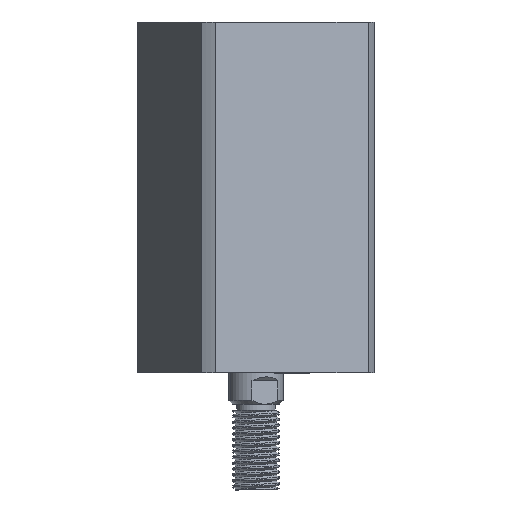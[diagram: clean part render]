
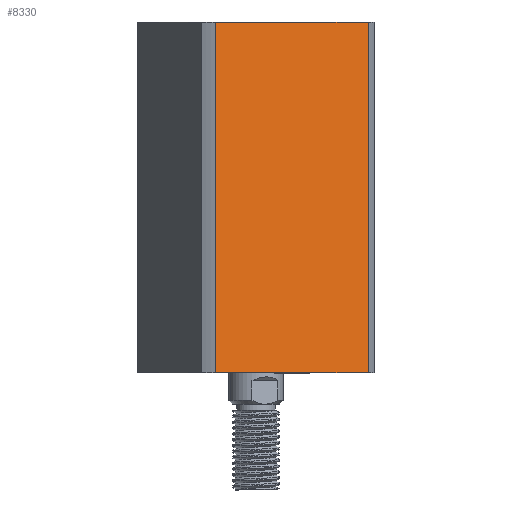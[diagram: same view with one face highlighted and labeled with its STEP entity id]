
A CAD part, front view. The second image highlights one B-rep face of the part: STEP entity #8330.
In plain terms, the highlighted planar face has unit normal (0.383, -0.924, 0) as drawn and (1, 0, 0) by its records, which use the part's own axes.
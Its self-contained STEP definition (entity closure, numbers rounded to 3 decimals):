
#336 = VERTEX_POINT ( 'NONE', #8269 ) ;
#356 = LINE ( 'NONE', #6537, #4519 ) ;
#383 = DIRECTION ( 'NONE',  ( 0., 0., -1. ) ) ;
#389 = ORIENTED_EDGE ( 'NONE', *, *, #9160, .F. ) ;
#604 = VERTEX_POINT ( 'NONE', #7932 ) ;
#1126 = LINE ( 'NONE', #10516, #4770 ) ;
#1274 = VECTOR ( 'NONE', #3169, 1000. ) ;
#1528 = FACE_OUTER_BOUND ( 'NONE', #9375, .T. ) ;
#1807 = CARTESIAN_POINT ( 'NONE',  ( 24., 24., 90. ) ) ;
#1897 = LINE ( 'NONE', #4526, #6335 ) ;
#2909 = VERTEX_POINT ( 'NONE', #4061 ) ;
#3169 = DIRECTION ( 'NONE',  ( 0., 1., 0. ) ) ;
#3454 = LINE ( 'NONE', #9014, #1274 ) ;
#4056 = ORIENTED_EDGE ( 'NONE', *, *, #8090, .F. ) ;
#4061 = CARTESIAN_POINT ( 'NONE',  ( 24., -21.166, 90. ) ) ;
#4292 = PLANE ( 'NONE',  #8685 ) ;
#4519 = VECTOR ( 'NONE', #5700, 1000. ) ;
#4526 = CARTESIAN_POINT ( 'NONE',  ( 24., 21.166, -10. ) ) ;
#4770 = VECTOR ( 'NONE', #10606, 1000. ) ;
#5131 = DIRECTION ( 'NONE',  ( 0., -1., 0. ) ) ;
#5700 = DIRECTION ( 'NONE',  ( 0., 0., 1. ) ) ;
#6319 = VERTEX_POINT ( 'NONE', #7561 ) ;
#6335 = VECTOR ( 'NONE', #383, 1000. ) ;
#6537 = CARTESIAN_POINT ( 'NONE',  ( 24., -21.166, -10. ) ) ;
#7201 = ORIENTED_EDGE ( 'NONE', *, *, #7286, .T. ) ;
#7286 = EDGE_CURVE ( 'NONE', #604, #6319, #3454, .T. ) ;
#7561 = CARTESIAN_POINT ( 'NONE',  ( 24., 21.166, 0. ) ) ;
#7932 = CARTESIAN_POINT ( 'NONE',  ( 24., -21.166, 0. ) ) ;
#8090 = EDGE_CURVE ( 'NONE', #604, #2909, #356, .T. ) ;
#8269 = CARTESIAN_POINT ( 'NONE',  ( 24., 21.166, 90. ) ) ;
#8330 = ADVANCED_FACE ( 'NONE', ( #1528 ), #4292, .F. ) ;
#8685 = AXIS2_PLACEMENT_3D ( 'NONE', #1807, #10154, #5131 ) ;
#9009 = ORIENTED_EDGE ( 'NONE', *, *, #9949, .F. ) ;
#9014 = CARTESIAN_POINT ( 'NONE',  ( 24., 24., 0. ) ) ;
#9160 = EDGE_CURVE ( 'NONE', #2909, #336, #1126, .T. ) ;
#9375 = EDGE_LOOP ( 'NONE', ( #4056, #7201, #9009, #389 ) ) ;
#9949 = EDGE_CURVE ( 'NONE', #336, #6319, #1897, .T. ) ;
#10154 = DIRECTION ( 'NONE',  ( -1., 0., 0. ) ) ;
#10516 = CARTESIAN_POINT ( 'NONE',  ( 24., 24., 90. ) ) ;
#10606 = DIRECTION ( 'NONE',  ( 0., 1., 0. ) ) ;
